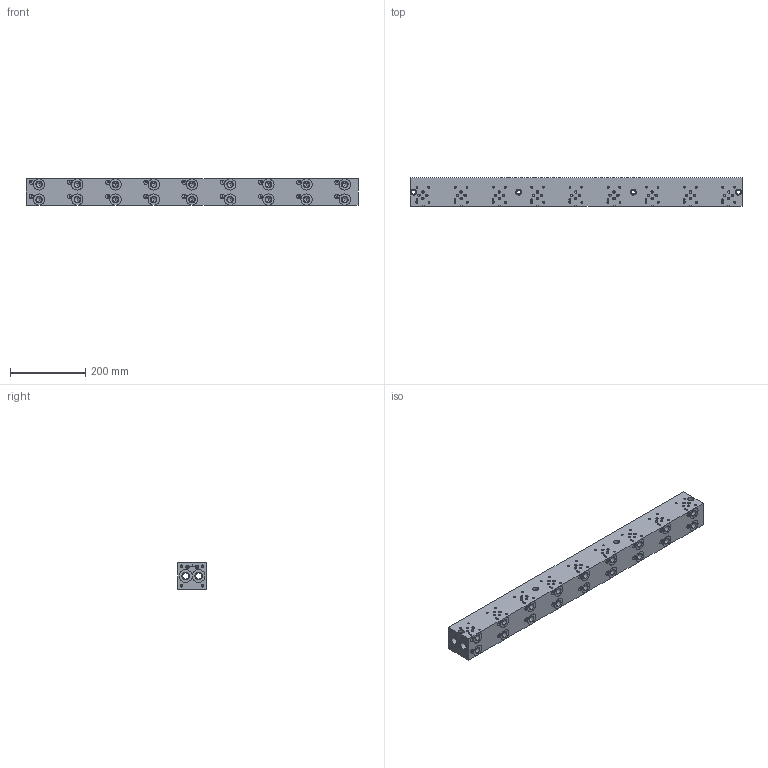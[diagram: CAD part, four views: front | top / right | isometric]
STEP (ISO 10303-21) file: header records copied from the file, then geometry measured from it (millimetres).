
FILE_DESCRIPTION (( 'STEP AP203' ), '1' );
FILE_NAME ('BM-ASP03S4-09-1_Z.STEP', '2015-01-06T15:44:54', ( '' ), ( '' ), 'SwSTEP 2.0', 'SolidWorks 2014', '' );
FILE_SCHEMA (( 'CONFIG_CONTROL_DESIGN' ));
Length unit declared in the file: inch
Products named in the file (1): BM-ASP03S4-09-1_Z
Bounding box: 882.65 x 74.93 x 69.85 mm (x, y, z)
Volume: 4057200 mm3; surface area: 422569.1 mm2
Topology: 1 solids, 1 shells, 1138 faces, 2912 edges, 1784 vertices
Faces by surface type: cylinder 458, plane 382, cone 205, bspline 93
Entity records: 41145 total; most frequent: CARTESIAN_POINT 14566, ORIENTED_EDGE 5468, DIRECTION 5309, EDGE_CURVE 2734, AXIS2_PLACEMENT_3D 1933, VERTEX_POINT 1784, VECTOR 1443, LINE 1443
